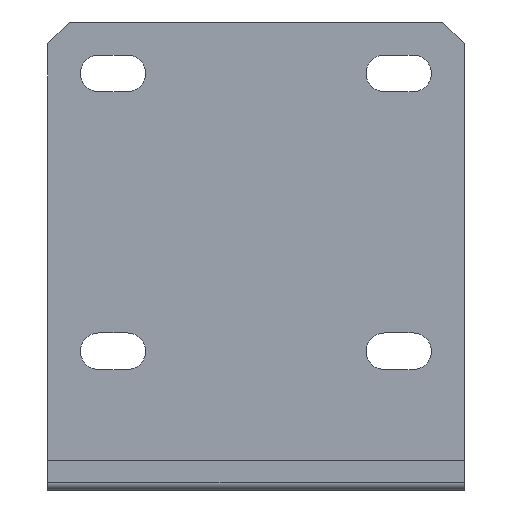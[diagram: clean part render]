
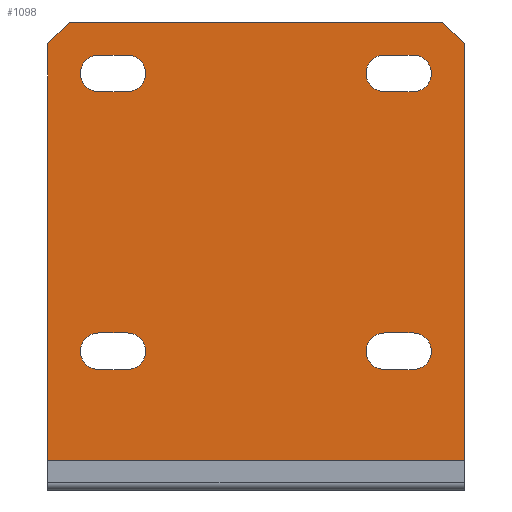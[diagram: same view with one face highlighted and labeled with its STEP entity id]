
A CAD part, left-side view. The second image highlights one B-rep face of the part: STEP entity #1098.
In plain terms, the highlighted planar face has unit normal (-1, 0, 0).
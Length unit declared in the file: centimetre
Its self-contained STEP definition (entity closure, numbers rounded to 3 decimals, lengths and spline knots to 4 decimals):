
#116=PLANE('',#1168);
#153=VECTOR('',#1274,1.);
#171=VECTOR('',#1314,1.);
#173=VECTOR('',#1317,1.);
#174=VECTOR('',#1318,1.);
#175=VECTOR('',#1319,1.);
#176=VECTOR('',#1320,1.);
#177=VECTOR('',#1323,1.);
#178=VECTOR('',#1326,1.);
#179=VECTOR('',#1329,1.);
#180=VECTOR('',#1332,1.);
#181=VECTOR('',#1335,1.);
#182=VECTOR('',#1338,1.);
#183=VECTOR('',#1341,1.);
#184=VECTOR('',#1344,1.);
#249=LINE('',#1555,#153);
#267=LINE('',#1609,#171);
#269=LINE('',#1613,#173);
#270=LINE('',#1615,#174);
#271=LINE('',#1617,#175);
#272=LINE('',#1619,#176);
#273=LINE('',#1623,#177);
#274=LINE('',#1627,#178);
#275=LINE('',#1631,#179);
#276=LINE('',#1635,#180);
#277=LINE('',#1639,#181);
#278=LINE('',#1643,#182);
#279=LINE('',#1647,#183);
#280=LINE('',#1651,#184);
#346=VERTEX_POINT('',#1554);
#347=VERTEX_POINT('',#1556);
#371=VERTEX_POINT('',#1610);
#372=VERTEX_POINT('',#1614);
#373=VERTEX_POINT('',#1616);
#374=VERTEX_POINT('',#1618);
#375=VERTEX_POINT('',#1621);
#376=VERTEX_POINT('',#1622);
#377=VERTEX_POINT('',#1624);
#378=VERTEX_POINT('',#1626);
#379=VERTEX_POINT('',#1629);
#380=VERTEX_POINT('',#1630);
#381=VERTEX_POINT('',#1632);
#382=VERTEX_POINT('',#1634);
#383=VERTEX_POINT('',#1637);
#384=VERTEX_POINT('',#1638);
#385=VERTEX_POINT('',#1640);
#386=VERTEX_POINT('',#1642);
#387=VERTEX_POINT('',#1645);
#388=VERTEX_POINT('',#1646);
#389=VERTEX_POINT('',#1648);
#390=VERTEX_POINT('',#1650);
#443=CIRCLE('',#1169,0.25);
#444=CIRCLE('',#1170,0.25);
#445=CIRCLE('',#1171,0.25);
#446=CIRCLE('',#1172,0.25);
#447=CIRCLE('',#1173,0.25);
#448=CIRCLE('',#1174,0.25);
#449=CIRCLE('',#1175,0.25);
#450=CIRCLE('',#1176,0.25);
#490=EDGE_CURVE('',#347,#346,#249,.T.);
#517=EDGE_CURVE('',#371,#346,#267,.T.);
#519=EDGE_CURVE('',#371,#372,#269,.T.);
#520=EDGE_CURVE('',#373,#372,#270,.T.);
#521=EDGE_CURVE('',#374,#373,#271,.T.);
#522=EDGE_CURVE('',#347,#374,#272,.T.);
#523=EDGE_CURVE('',#375,#376,#443,.T.);
#524=EDGE_CURVE('',#376,#377,#273,.T.);
#525=EDGE_CURVE('',#377,#378,#444,.T.);
#526=EDGE_CURVE('',#378,#375,#274,.T.);
#527=EDGE_CURVE('',#379,#380,#445,.T.);
#528=EDGE_CURVE('',#380,#381,#275,.T.);
#529=EDGE_CURVE('',#381,#382,#446,.T.);
#530=EDGE_CURVE('',#382,#379,#276,.T.);
#531=EDGE_CURVE('',#383,#384,#447,.T.);
#532=EDGE_CURVE('',#384,#385,#277,.T.);
#533=EDGE_CURVE('',#385,#386,#448,.T.);
#534=EDGE_CURVE('',#386,#383,#278,.T.);
#535=EDGE_CURVE('',#387,#388,#449,.T.);
#536=EDGE_CURVE('',#388,#389,#279,.T.);
#537=EDGE_CURVE('',#389,#390,#450,.T.);
#538=EDGE_CURVE('',#390,#387,#280,.T.);
#670=ORIENTED_EDGE('',*,*,#517,.F.);
#671=ORIENTED_EDGE('',*,*,#519,.T.);
#672=ORIENTED_EDGE('',*,*,#520,.F.);
#673=ORIENTED_EDGE('',*,*,#521,.F.);
#674=ORIENTED_EDGE('',*,*,#522,.F.);
#675=ORIENTED_EDGE('',*,*,#490,.T.);
#676=ORIENTED_EDGE('',*,*,#523,.T.);
#677=ORIENTED_EDGE('',*,*,#524,.T.);
#678=ORIENTED_EDGE('',*,*,#525,.T.);
#679=ORIENTED_EDGE('',*,*,#526,.T.);
#680=ORIENTED_EDGE('',*,*,#527,.T.);
#681=ORIENTED_EDGE('',*,*,#528,.T.);
#682=ORIENTED_EDGE('',*,*,#529,.T.);
#683=ORIENTED_EDGE('',*,*,#530,.T.);
#684=ORIENTED_EDGE('',*,*,#531,.T.);
#685=ORIENTED_EDGE('',*,*,#532,.T.);
#686=ORIENTED_EDGE('',*,*,#533,.T.);
#687=ORIENTED_EDGE('',*,*,#534,.T.);
#688=ORIENTED_EDGE('',*,*,#535,.T.);
#689=ORIENTED_EDGE('',*,*,#536,.T.);
#690=ORIENTED_EDGE('',*,*,#537,.T.);
#691=ORIENTED_EDGE('',*,*,#538,.T.);
#916=EDGE_LOOP('',(#670,#671,#672,#673,#674,#675));
#917=EDGE_LOOP('',(#676,#677,#678,#679));
#918=EDGE_LOOP('',(#680,#681,#682,#683));
#919=EDGE_LOOP('',(#684,#685,#686,#687));
#920=EDGE_LOOP('',(#688,#689,#690,#691));
#1009=FACE_BOUND('',#916,.T.);
#1010=FACE_BOUND('',#917,.T.);
#1011=FACE_BOUND('',#918,.T.);
#1012=FACE_BOUND('',#919,.T.);
#1013=FACE_BOUND('',#920,.T.);
#1098=ADVANCED_FACE('',(#1009,#1010,#1011,#1012,#1013),#116,.T.);
#1168=AXIS2_PLACEMENT_3D('',#1612,#1316,$);
#1169=AXIS2_PLACEMENT_3D('',#1620,#1321,#1322);
#1170=AXIS2_PLACEMENT_3D('',#1625,#1324,#1325);
#1171=AXIS2_PLACEMENT_3D('',#1628,#1327,#1328);
#1172=AXIS2_PLACEMENT_3D('',#1633,#1330,#1331);
#1173=AXIS2_PLACEMENT_3D('',#1636,#1333,#1334);
#1174=AXIS2_PLACEMENT_3D('',#1641,#1336,#1337);
#1175=AXIS2_PLACEMENT_3D('',#1644,#1339,#1340);
#1176=AXIS2_PLACEMENT_3D('',#1649,#1342,#1343);
#1274=DIRECTION('',(0.,0.,1.));
#1314=DIRECTION('',(0.,-0.707,-0.707));
#1316=DIRECTION('',(-1.,0.,0.));
#1317=DIRECTION('',(0.,1.,0.));
#1318=DIRECTION('',(0.,-0.707,0.707));
#1319=DIRECTION('',(0.,0.,1.));
#1320=DIRECTION('',(0.,1.,0.));
#1321=DIRECTION('',(1.,0.,0.));
#1322=DIRECTION('',(0.,0.,0.25));
#1323=DIRECTION('',(0.,1.,0.));
#1324=DIRECTION('',(1.,0.,0.));
#1325=DIRECTION('',(0.,0.,0.25));
#1326=DIRECTION('',(0.,-1.,0.));
#1327=DIRECTION('',(1.,0.,0.));
#1328=DIRECTION('',(0.,0.,0.25));
#1329=DIRECTION('',(0.,1.,0.));
#1330=DIRECTION('',(1.,0.,0.));
#1331=DIRECTION('',(0.,0.,0.25));
#1332=DIRECTION('',(0.,-1.,0.));
#1333=DIRECTION('',(1.,0.,0.));
#1334=DIRECTION('',(0.,0.,0.25));
#1335=DIRECTION('',(0.,-1.,0.));
#1336=DIRECTION('',(1.,0.,0.));
#1337=DIRECTION('',(0.,0.,0.25));
#1338=DIRECTION('',(0.,1.,0.));
#1339=DIRECTION('',(1.,0.,0.));
#1340=DIRECTION('',(0.,0.,0.25));
#1341=DIRECTION('',(0.,-1.,0.));
#1342=DIRECTION('',(1.,0.,0.));
#1343=DIRECTION('',(0.,0.,0.25));
#1344=DIRECTION('',(0.,1.,0.));
#1554=CARTESIAN_POINT('',(-0.4037,0.,6.1));
#1555=CARTESIAN_POINT('',(-0.4037,0.,0.4));
#1556=CARTESIAN_POINT('',(-0.4037,0.,0.4));
#1609=CARTESIAN_POINT('',(-0.4037,-0.6373,5.4627));
#1610=CARTESIAN_POINT('',(-0.4037,0.3,6.4));
#1612=CARTESIAN_POINT('',(-0.4037,2.851,0.4));
#1613=CARTESIAN_POINT('',(-0.4037,0.,6.4));
#1614=CARTESIAN_POINT('',(-0.4037,5.402,6.4));
#1615=CARTESIAN_POINT('',(-0.4037,6.3392,5.4627));
#1616=CARTESIAN_POINT('',(-0.4037,5.702,6.1));
#1617=CARTESIAN_POINT('',(-0.4037,5.702,0.4));
#1618=CARTESIAN_POINT('',(-0.4037,5.702,0.4));
#1619=CARTESIAN_POINT('',(-0.4037,0.,0.4));
#1620=CARTESIAN_POINT('',(-0.4037,4.6095,1.8977));
#1621=CARTESIAN_POINT('',(-0.4037,4.6095,2.1477));
#1622=CARTESIAN_POINT('',(-0.4037,4.6095,1.6477));
#1623=CARTESIAN_POINT('',(-0.4037,3.8289,1.6477));
#1624=CARTESIAN_POINT('',(-0.4037,5.0039,1.6477));
#1625=CARTESIAN_POINT('',(-0.4037,5.0039,1.8977));
#1626=CARTESIAN_POINT('',(-0.4037,5.0039,2.1477));
#1627=CARTESIAN_POINT('',(-0.4037,3.8289,2.1477));
#1628=CARTESIAN_POINT('',(-0.4037,0.7022,1.8977));
#1629=CARTESIAN_POINT('',(-0.4037,0.7022,2.1477));
#1630=CARTESIAN_POINT('',(-0.4037,0.7022,1.6477));
#1631=CARTESIAN_POINT('',(-0.4037,1.8752,1.6477));
#1632=CARTESIAN_POINT('',(-0.4037,1.0966,1.6477));
#1633=CARTESIAN_POINT('',(-0.4037,1.0966,1.8977));
#1634=CARTESIAN_POINT('',(-0.4037,1.0966,2.1477));
#1635=CARTESIAN_POINT('',(-0.4037,1.8752,2.1477));
#1636=CARTESIAN_POINT('',(-0.4037,1.0966,5.6968));
#1637=CARTESIAN_POINT('',(-0.4037,1.0966,5.4468));
#1638=CARTESIAN_POINT('',(-0.4037,1.0966,5.9468));
#1639=CARTESIAN_POINT('',(-0.4037,1.8752,5.9468));
#1640=CARTESIAN_POINT('',(-0.4037,0.7022,5.9468));
#1641=CARTESIAN_POINT('',(-0.4037,0.7022,5.6968));
#1642=CARTESIAN_POINT('',(-0.4037,0.7022,5.4468));
#1643=CARTESIAN_POINT('',(-0.4037,1.8752,5.4468));
#1644=CARTESIAN_POINT('',(-0.4037,5.0039,5.6968));
#1645=CARTESIAN_POINT('',(-0.4037,5.0039,5.4468));
#1646=CARTESIAN_POINT('',(-0.4037,5.0039,5.9468));
#1647=CARTESIAN_POINT('',(-0.4037,3.8289,5.9468));
#1648=CARTESIAN_POINT('',(-0.4037,4.6095,5.9468));
#1649=CARTESIAN_POINT('',(-0.4037,4.6095,5.6968));
#1650=CARTESIAN_POINT('',(-0.4037,4.6095,5.4468));
#1651=CARTESIAN_POINT('',(-0.4037,3.8289,5.4468));
